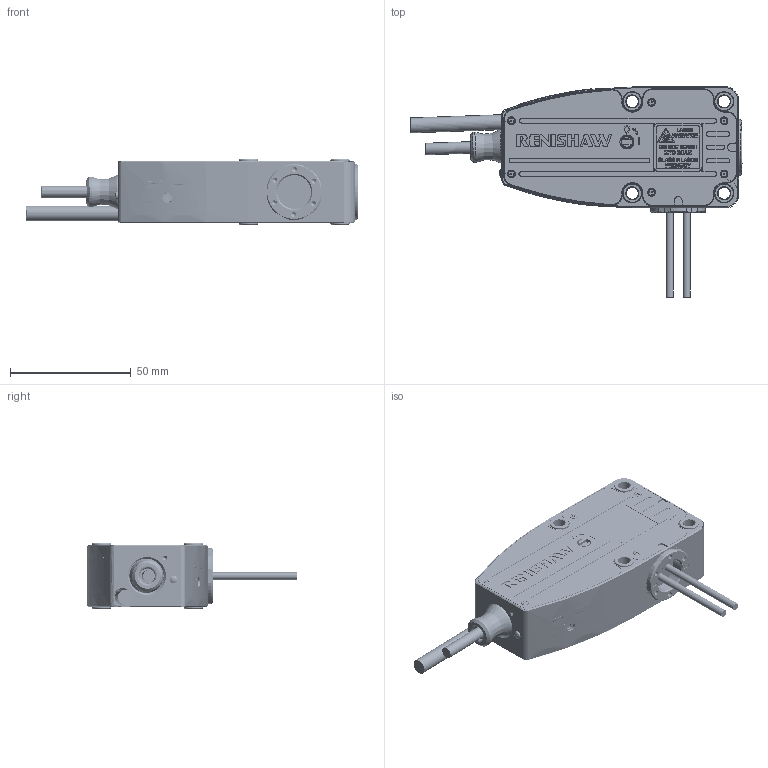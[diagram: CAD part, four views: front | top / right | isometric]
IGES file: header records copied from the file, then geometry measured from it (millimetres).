
Global section: file name: /home/users/pf123904/RLD10_A3_X9.igs; native system: Unigraphics Version X V1.0; preprocessor: Unigraphics NX IGES V1.0; date: 20040806.153249; units: millimetre
Bounding box: 137.35 x 86.9 x 27 mm (x, y, z)
Surface area: 24835 mm2 (no closed solid volume)
Topology: 0 solids, 0 shells, 4517 faces, 29566 edges, 29443 vertices
Faces by surface type: extrusion 3883, revolution 634
